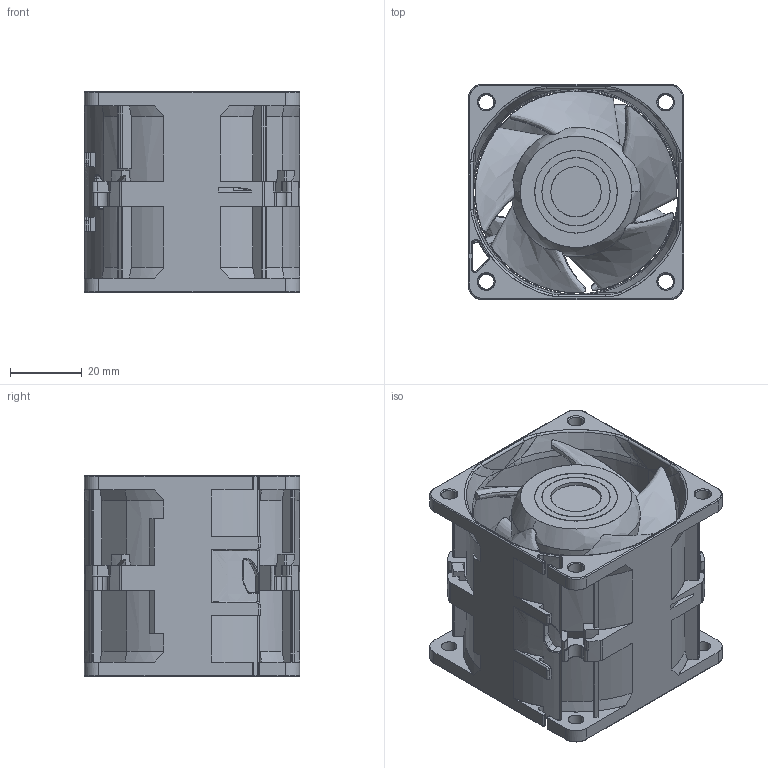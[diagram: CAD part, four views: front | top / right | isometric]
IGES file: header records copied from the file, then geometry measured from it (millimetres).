
Start section: SolidWorks IGES file using analytic representation for surfaces
Global section: file name: C:\Users\Okuda-Yuusuke\Desktop\公開用3D\●【公開用３D】60x56_9CRA\60x56CRA.IGS; native system: SolidWorks 2016; preprocessor: SolidWorks 2016; author: Okuda-Yuusuke; date: 170131.190404; units: millimetre
Bounding box: 60 x 60 x 56 mm (x, y, z)
Surface area: 41963.4 mm2 (no closed solid volume)
Topology: 0 solids, 0 shells, 608 faces, 7108 edges, 7077 vertices
Faces by surface type: bspline 341, revolution 267
